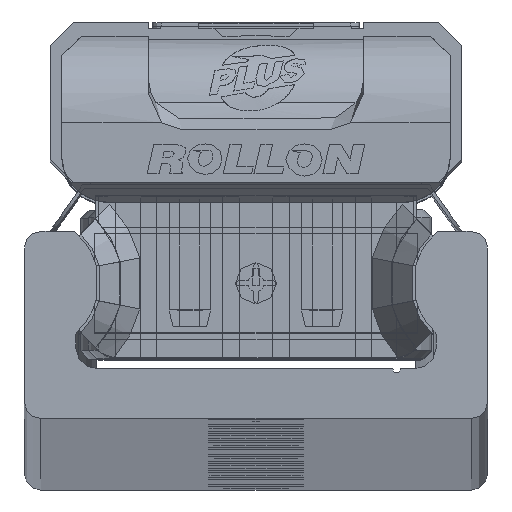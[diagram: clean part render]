
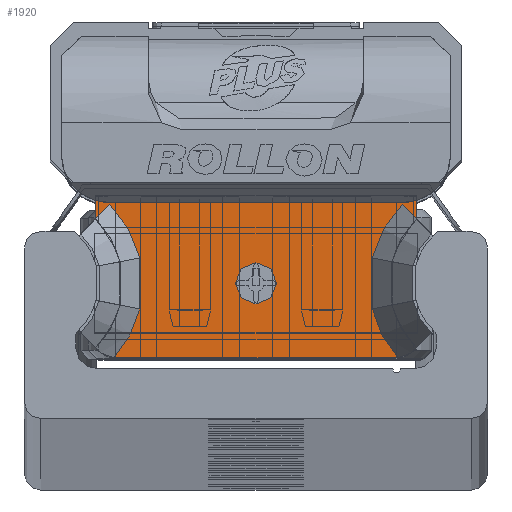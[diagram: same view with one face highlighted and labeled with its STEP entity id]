
A CAD part, top view. The second image highlights one B-rep face of the part: STEP entity #1920.
In plain terms, the highlighted planar face has unit normal (0, 0, 1) as drawn and (0, 0, -1) by its records, which use the part's own axes.
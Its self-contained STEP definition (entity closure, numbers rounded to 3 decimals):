
#1920 = ADVANCED_FACE( '', ( #4144, #4145 ), #4146, .F. );
#4144 = FACE_BOUND( '', #6621, .T. );
#4145 = FACE_OUTER_BOUND( '', #6622, .T. );
#4146 = PLANE( '', #6623 );
#6621 = EDGE_LOOP( '', ( #11791 ) );
#6622 = EDGE_LOOP( '', ( #11792, #11793, #11794, #11795, #11796, #11797, #11798, #11799, #11800, #11801, #11802, #11803, #11804, #11805 ) );
#6623 = AXIS2_PLACEMENT_3D( '', #11806, #11807, #11808 );
#11791 = ORIENTED_EDGE( '', *, *, #14723, .T. );
#11792 = ORIENTED_EDGE( '', *, *, #14421, .F. );
#11793 = ORIENTED_EDGE( '', *, *, #13142, .T. );
#11794 = ORIENTED_EDGE( '', *, *, #14376, .T. );
#11795 = ORIENTED_EDGE( '', *, *, #14972, .T. );
#11796 = ORIENTED_EDGE( '', *, *, #13511, .T. );
#11797 = ORIENTED_EDGE( '', *, *, #14114, .T. );
#11798 = ORIENTED_EDGE( '', *, *, #14046, .T. );
#11799 = ORIENTED_EDGE( '', *, *, #13463, .T. );
#11800 = ORIENTED_EDGE( '', *, *, #14981, .T. );
#11801 = ORIENTED_EDGE( '', *, *, #15057, .T. );
#11802 = ORIENTED_EDGE( '', *, *, #14645, .T. );
#11803 = ORIENTED_EDGE( '', *, *, #13380, .T. );
#11804 = ORIENTED_EDGE( '', *, *, #14395, .T. );
#11805 = ORIENTED_EDGE( '', *, *, #14042, .T. );
#11806 = CARTESIAN_POINT( '', ( 9.7, 4.89, -10.6 ) );
#11807 = DIRECTION( '', ( 0., 0., 1. ) );
#11808 = DIRECTION( '', ( 1., 0., 0. ) );
#13142 = EDGE_CURVE( '', #15541, #15539, #15542, .T. );
#13380 = EDGE_CURVE( '', #15949, #15947, #15950, .T. );
#13463 = EDGE_CURVE( '', #16088, #16086, #16089, .T. );
#13511 = EDGE_CURVE( '', #16169, #16170, #16171, .T. );
#14042 = EDGE_CURVE( '', #17047, #15656, #17048, .T. );
#14046 = EDGE_CURVE( '', #17053, #16088, #17054, .T. );
#14114 = EDGE_CURVE( '', #16170, #17053, #17150, .T. );
#14376 = EDGE_CURVE( '', #15539, #17562, #17564, .T. );
#14395 = EDGE_CURVE( '', #15947, #17047, #17588, .T. );
#14421 = EDGE_CURVE( '', #15541, #15656, #17623, .T. );
#14645 = EDGE_CURVE( '', #15549, #15949, #17934, .T. );
#14723 = EDGE_CURVE( '', #18033, #18033, #18034, .T. );
#14972 = EDGE_CURVE( '', #17562, #16169, #18339, .T. );
#14981 = EDGE_CURVE( '', #16086, #15581, #18349, .T. );
#15057 = EDGE_CURVE( '', #15581, #15549, #18437, .T. );
#15539 = VERTEX_POINT( '', #19021 );
#15541 = VERTEX_POINT( '', #19024 );
#15542 = CIRCLE( '', #19025, 2.8 );
#15549 = VERTEX_POINT( '', #19034 );
#15581 = VERTEX_POINT( '', #19083 );
#15656 = VERTEX_POINT( '', #19183 );
#15947 = VERTEX_POINT( '', #19611 );
#15949 = VERTEX_POINT( '', #19614 );
#15950 = B_SPLINE_CURVE_WITH_KNOTS( '', 2, ( #19615, #19616, #19617 ), .UNSPECIFIED., .F., .F., ( 3, 3 ), ( 0., 1. ), .UNSPECIFIED. );
#16086 = VERTEX_POINT( '', #19832 );
#16088 = VERTEX_POINT( '', #19835 );
#16089 = B_SPLINE_CURVE_WITH_KNOTS( '', 2, ( #19836, #19837, #19838 ), .UNSPECIFIED., .F., .F., ( 3, 3 ), ( 0., 1. ), .UNSPECIFIED. );
#16169 = VERTEX_POINT( '', #19942 );
#16170 = VERTEX_POINT( '', #19943 );
#16171 = LINE( '', #19944, #19945 );
#17047 = VERTEX_POINT( '', #21132 );
#17048 = LINE( '', #21133, #21134 );
#17053 = VERTEX_POINT( '', #21141 );
#17054 = B_SPLINE_CURVE_WITH_KNOTS( '', 2, ( #21142, #21143, #21144, #21145, #21146 ), .UNSPECIFIED., .F., .F., ( 3, 2, 3 ), ( 0., 0.5, 1. ), .UNSPECIFIED. );
#17150 = LINE( '', #21314, #21315 );
#17562 = VERTEX_POINT( '', #21859 );
#17564 = LINE( '', #21862, #21863 );
#17588 = B_SPLINE_CURVE_WITH_KNOTS( '', 2, ( #21900, #21901, #21902 ), .UNSPECIFIED., .F., .F., ( 3, 3 ), ( 0., 1. ), .UNSPECIFIED. );
#17623 = LINE( '', #21978, #21979 );
#17934 = B_SPLINE_CURVE_WITH_KNOTS( '', 2, ( #22441, #22442, #22443 ), .UNSPECIFIED., .F., .F., ( 3, 3 ), ( 0.1, 1. ), .UNSPECIFIED. );
#18033 = VERTEX_POINT( '', #22584 );
#18034 = CIRCLE( '', #22585, 1.25 );
#18339 = CIRCLE( '', #23055, 2.8 );
#18349 = B_SPLINE_CURVE_WITH_KNOTS( '', 2, ( #23068, #23069, #23070 ), .UNSPECIFIED., .F., .F., ( 3, 3 ), ( 0., 1. ), .UNSPECIFIED. );
#18437 = LINE( '', #23175, #23176 );
#19021 = CARTESIAN_POINT( '', ( -8.95, 4.51, -10.6 ) );
#19024 = CARTESIAN_POINT( '', ( -9.7, 4.612, -10.6 ) );
#19025 = AXIS2_PLACEMENT_3D( '', #23683, #23684, #23685 );
#19034 = CARTESIAN_POINT( '', ( -8.59, -4.893, -10.6 ) );
#19083 = CARTESIAN_POINT( '', ( 8.59, -4.893, -10.6 ) );
#19183 = CARTESIAN_POINT( '', ( -9.7, 3.494, -10.6 ) );
#19611 = CARTESIAN_POINT( '', ( -7.031, 1.144, -10.6 ) );
#19614 = CARTESIAN_POINT( '', ( -7.031, -1.944, -10.6 ) );
#19615 = CARTESIAN_POINT( '', ( -7.031, -1.944, -10.6 ) );
#19616 = CARTESIAN_POINT( '', ( -6.929, -0.4, -10.6 ) );
#19617 = CARTESIAN_POINT( '', ( -7.031, 1.144, -10.6 ) );
#19832 = CARTESIAN_POINT( '', ( 7.031, -1.944, -10.6 ) );
#19835 = CARTESIAN_POINT( '', ( 7.031, 1.144, -10.6 ) );
#19836 = CARTESIAN_POINT( '', ( 7.031, 1.144, -10.6 ) );
#19837 = CARTESIAN_POINT( '', ( 6.929, -0.4, -10.6 ) );
#19838 = CARTESIAN_POINT( '', ( 7.031, -1.944, -10.6 ) );
#19942 = CARTESIAN_POINT( '', ( 9.7, 4.612, -10.6 ) );
#19943 = CARTESIAN_POINT( '', ( 9.7, 3.497, -10.6 ) );
#19944 = CARTESIAN_POINT( '', ( 9.7, 4.89, -10.6 ) );
#19945 = VECTOR( '', #24154, 1000. );
#21132 = CARTESIAN_POINT( '', ( -8.853, 4.366, -10.6 ) );
#21133 = CARTESIAN_POINT( '', ( -8.853, 4.366, -10.6 ) );
#21134 = VECTOR( '', #24913, 1000. );
#21141 = CARTESIAN_POINT( '', ( 8.853, 4.366, -10.6 ) );
#21142 = CARTESIAN_POINT( '', ( 8.853, 4.366, -10.6 ) );
#21143 = CARTESIAN_POINT( '', ( 8.182, 3.708, -10.6 ) );
#21144 = CARTESIAN_POINT( '', ( 7.715, 2.883, -10.6 ) );
#21145 = CARTESIAN_POINT( '', ( 7.249, 2.058, -10.6 ) );
#21146 = CARTESIAN_POINT( '', ( 7.031, 1.144, -10.6 ) );
#21314 = CARTESIAN_POINT( '', ( 9.7, 3.501, -10.6 ) );
#21315 = VECTOR( '', #24982, 1000. );
#21859 = CARTESIAN_POINT( '', ( 8.95, 4.51, -10.6 ) );
#21862 = CARTESIAN_POINT( '', ( 9.7, 4.51, -10.6 ) );
#21863 = VECTOR( '', #25391, 1000. );
#21900 = CARTESIAN_POINT( '', ( -7.031, 1.144, -10.6 ) );
#21901 = CARTESIAN_POINT( '', ( -7.477, 3.018, -10.6 ) );
#21902 = CARTESIAN_POINT( '', ( -8.853, 4.366, -10.6 ) );
#21978 = CARTESIAN_POINT( '', ( -9.7, 4.89, -10.6 ) );
#21979 = VECTOR( '', #25424, 1000. );
#22441 = CARTESIAN_POINT( '', ( -8.587, -4.89, -10.6 ) );
#22442 = CARTESIAN_POINT( '', ( -7.432, -3.63, -10.6 ) );
#22443 = CARTESIAN_POINT( '', ( -7.031, -1.944, -10.6 ) );
#22584 = CARTESIAN_POINT( '', ( 1.25, -0.39, -10.6 ) );
#22585 = AXIS2_PLACEMENT_3D( '', #25773, #25774, #25775 );
#23055 = AXIS2_PLACEMENT_3D( '', #26096, #26097, #26098 );
#23068 = CARTESIAN_POINT( '', ( 7.031, -1.944, -10.6 ) );
#23069 = CARTESIAN_POINT( '', ( 7.429, -3.615, -10.6 ) );
#23070 = CARTESIAN_POINT( '', ( 8.588, -4.89, -10.6 ) );
#23175 = CARTESIAN_POINT( '', ( 9.7, -4.89, -10.6 ) );
#23176 = VECTOR( '', #26163, 1000. );
#23683 = CARTESIAN_POINT( '', ( -8.95, 7.31, -10.6 ) );
#23684 = DIRECTION( '', ( 0., 0., 1. ) );
#23685 = DIRECTION( '', ( 1., 0., 0. ) );
#24154 = DIRECTION( '', ( 0., -1., 0. ) );
#24913 = DIRECTION( '', ( -0.7, -0.714, 0. ) );
#24982 = DIRECTION( '', ( -0.7, 0.714, 0. ) );
#25391 = DIRECTION( '', ( 1., 0., 0. ) );
#25424 = DIRECTION( '', ( 0., -1., 0. ) );
#25773 = CARTESIAN_POINT( '', ( 0., -0.39, -10.6 ) );
#25774 = DIRECTION( '', ( 0., 0., 1. ) );
#25775 = DIRECTION( '', ( 1., 0., 0. ) );
#26096 = CARTESIAN_POINT( '', ( 8.95, 7.31, -10.6 ) );
#26097 = DIRECTION( '', ( 0., 0., 1. ) );
#26098 = DIRECTION( '', ( 1., 0., 0. ) );
#26163 = DIRECTION( '', ( -1., 0., 0. ) );
